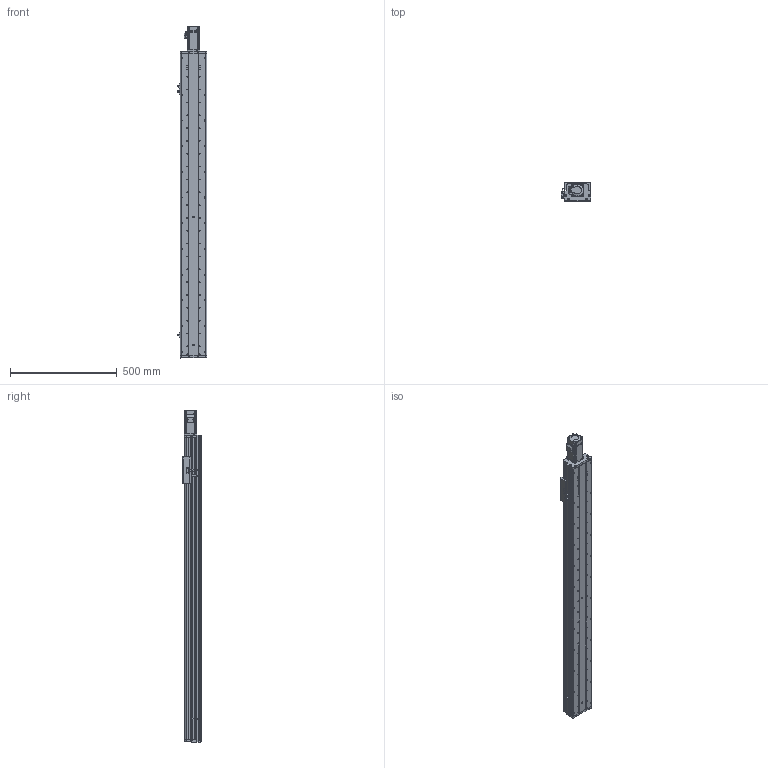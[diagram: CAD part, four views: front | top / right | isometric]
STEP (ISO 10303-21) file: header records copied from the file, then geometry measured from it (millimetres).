
FILE_DESCRIPTION (( 'STEP AP214' ), '1' );
FILE_NAME ('KSD125S-S1150-MN-CM.STEP', '2017-08-07T06:28:57', ( '微软用户' ), ( '微软中国' ), 'SwSTEP 2.0', 'SolidWorks 2014', '' );
FILE_SCHEMA (( 'AUTOMOTIVE_DESIGN' ));
Length unit declared in the file: millimetre
Products named in the file (12): U倰嫖萇EEㄜSX672; KSD125-賑雄釱1; CS-34X32-10X14; 125-帣傷啣1; KSD125S-S1150-MN-CM; KSD125S-1150行程丝杆防尘盖-直连不带电机座; KSD125S-1150行程丝杆底板-直连不带电机座; 125宽模组 - 直连不带电机座电机安装板; MHMD042G1CA_2_03; 拸萇儂釱滅袉菜; 覜茼え68遵圉猾敕; U倰嫖萇假蚾璃
Assembly tree (15 placements, depth 2):
  KSD125S-S1150-MN-CM
    125-帣傷啣1
    CS-34X32-10X14
    KSD125-賑雄釱1
    U倰嫖萇EEㄜSX672  x3
    U倰嫖萇假蚾璃  x3
    覜茼え68遵圉猾敕
    拸萇儂釱滅袉菜
    MHMD042G1CA_2_03
    125宽模组 - 直连不带电机座电机安装板
    KSD125S-1150行程丝杆底板-直连不带电机座
    KSD125S-1150行程丝杆防尘盖-直连不带电机座
Bounding box: 138.7 x 86 x 1551.5 mm (x, y, z)
Volume: 4386778.7 mm3; surface area: 1427409.1 mm2
Topology: 14 solids, 17 shells, 1540 faces, 4467 edges, 2941 vertices
Faces by surface type: cylinder 800, plane 627, cone 91, bspline 22
Entity records: 54792 total; most frequent: CARTESIAN_POINT 11598, DIRECTION 7795, ORIENTED_EDGE 7442, EDGE_CURVE 3799, AXIS2_PLACEMENT_3D 2888, VERTEX_POINT 2533, LINE 2019, VECTOR 2019
